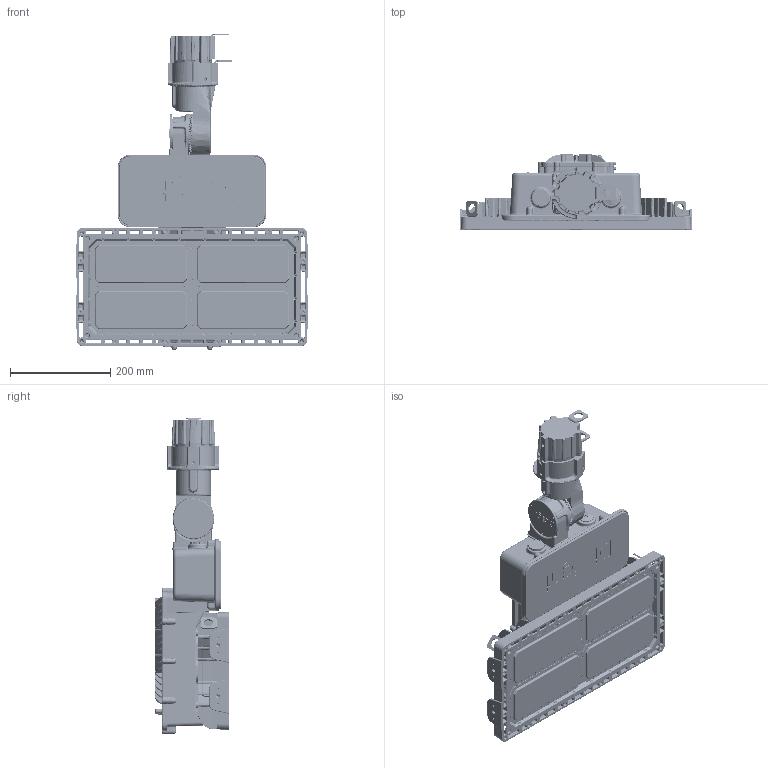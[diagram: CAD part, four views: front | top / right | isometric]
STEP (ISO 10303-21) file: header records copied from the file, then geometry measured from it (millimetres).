
FILE_DESCRIPTION((''),'2;1');
FILE_NAME('S1XXXXXXXSNXXG_MARKETING_ASM','2024-08-26T10:57:35',('cwang'),(''),'CREO PARAMETRIC BY PTC INC, 2021304','CREO PARAMETRIC BY PTC INC, 2021304','');
FILE_SCHEMA(('CONFIG_CONTROL_DESIGN'));
Products named in the file (27): 0000701231; 0000701197; 0000701198; 0000701199; 0000701200; 0000701201; 0000701188_ASM; 0000701187_ASM; 0000701205; 0000701189_ASM; 0000701207; 0000701210; 0000701190_ASM; 0000701211; 0000701191_ASM; 0000701212; 0000701192_ASM; 0000701213; 0000701214; 0000701193_ASM; 0000701215; 0000701194_ASM; 0000701230; 0000701186_ASM; 0000701185_ASM; 0000701184_ASM; S1XXXXXXXSNXXG_MARKETING_ASM
Assembly tree (32 placements, depth 7):
  S1XXXXXXXSNXXG_MARKETING_ASM
    0000701184_ASM
      0000701185_ASM
        0000701186_ASM
          0000701231
          0000701197
          0000701187_ASM
            0000701198
            0000701199
            0000701188_ASM
              0000701200
              0000701201  x4
          0000701189_ASM
            0000701205
          0000701207  x2
          0000701190_ASM
            0000701210
          0000701191_ASM
            0000701211
            0000701207
          0000701192_ASM
            0000701212
          0000701193_ASM
            0000701213
            0000701214
            0000701207
          0000701194_ASM
            0000701215
          0000701230
Bounding box: 462.38 x 149.1 x 630.25 mm (x, y, z)
Volume: 9243261.4 mm3; surface area: 1458496.2 mm2
Topology: 21 solids, 258 shells, 18566 faces, 46248 edges, 27708 vertices
Faces by surface type: bspline 6066, plane 4702, cylinder 4403, torus 1648, cone 1241, sphere 498, extrusion 8
Entity records: 884380 total; most frequent: CARTESIAN_POINT 558825, ORIENTED_EDGE 75646, DIRECTION 55567, EDGE_CURVE 38275, VERTEX_POINT 23013, AXIS2_PLACEMENT_3D 21814, EDGE_LOOP 16255, FACE_OUTER_BOUND 15770
